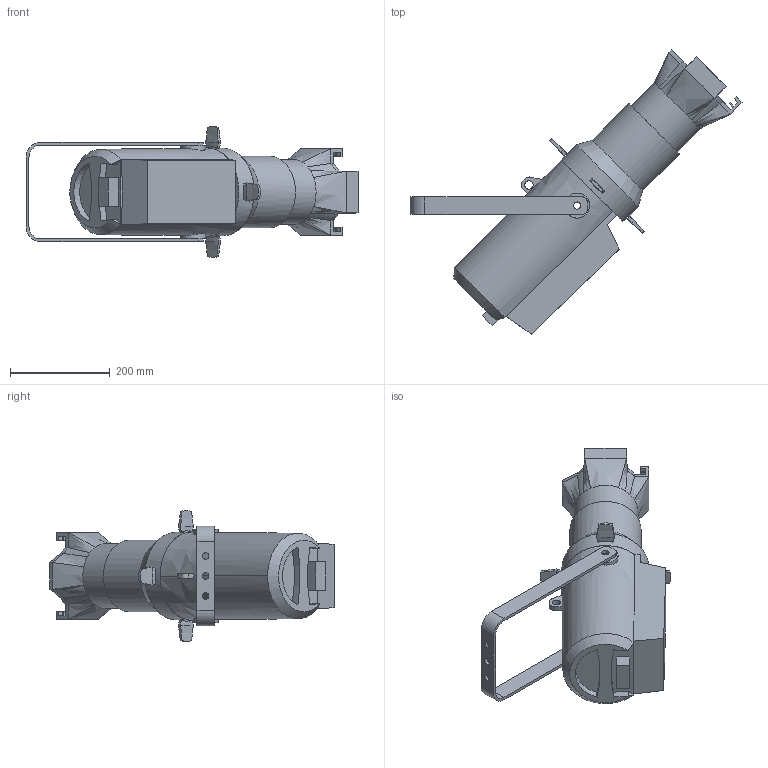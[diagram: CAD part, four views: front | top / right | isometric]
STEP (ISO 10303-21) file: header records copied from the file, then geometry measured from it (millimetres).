
FILE_DESCRIPTION(/* description */ (''),/* implementation_level */ '2;1');
FILE_NAME(/* name */ 'D:/dgooch/Documents/CADENG/PRO/Ovation E-260CW/45/3D/OVATIONE260CW_45.step',/* time_stamp */ '2020-03-09T12:12:16-04:00',/* author */ (''),/* organization */ (''),/* preprocessor_version */ 'ST-DEVELOPER v18',/* originating_system */ 'Autodesk Translation Framework v8.12.0.6',/* authorisation */ '');
FILE_SCHEMA (('AUTOMOTIVE_DESIGN { 1 0 10303 214 3 1 1 }'));
Length unit declared in the file: millimetre
Products named in the file (3): OVATIONE260CW (v4~recovered); Bracket; Main
Assembly tree (2 placements, depth 2):
  OVATIONE260CW (v4~recovered)
    Bracket
    Main
Bounding box: 665.24 x 569.25 x 262.15 mm (x, y, z)
Volume: 14324116.5 mm3; surface area: 541291.2 mm2
Topology: 2 solids, 2 shells, 202 faces, 537 edges, 353 vertices
Faces by surface type: plane 118, cylinder 32, bspline 28, cone 24
Full cylindrical faces by diameter (mm): 13 x3, 14.5 x3, 17 x1, 50 x2, 129.499 x1, 143 x1, 175 x1
Entity records: 28780 total; most frequent: CARTESIAN_POINT 23675, ORIENTED_EDGE 1090, DIRECTION 983, EDGE_CURVE 545, VERTEX_POINT 369, AXIS2_PLACEMENT_3D 351, LINE 281, VECTOR 281
